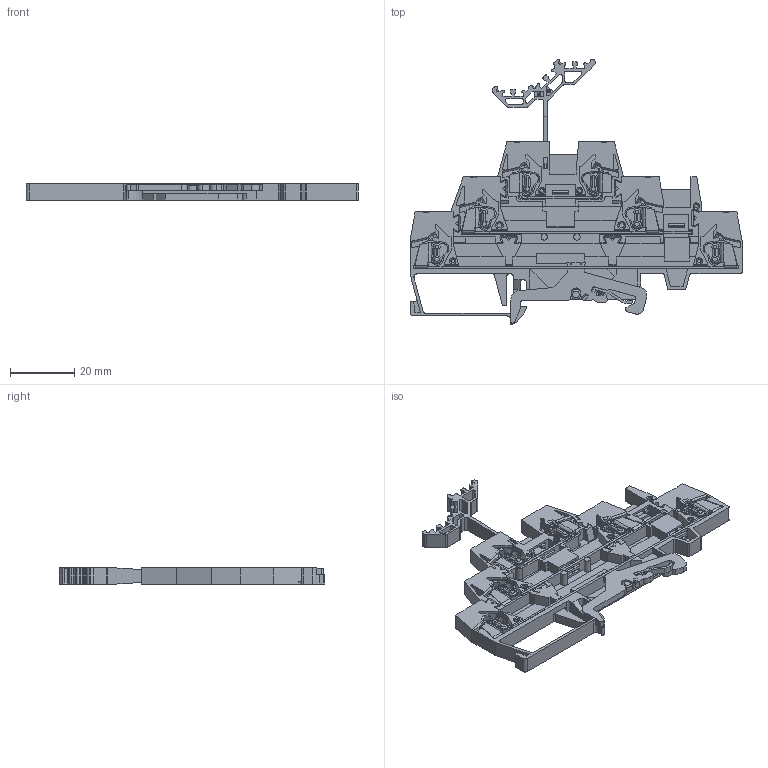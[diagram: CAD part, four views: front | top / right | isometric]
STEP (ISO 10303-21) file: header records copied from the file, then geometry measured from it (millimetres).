
FILE_DESCRIPTION (( 'STEP AP203' ), '1' );
FILE_NAME ('ÊÏÐ1-2,5Â-3ßõ2Â-ÐÅ.STEP', '2019-03-01T13:02:21', ( '' ), ( '' ), 'SwSTEP 2.0', 'SolidWorks 2016', '' );
FILE_SCHEMA (( 'CONFIG_CONTROL_DESIGN' ));
Length unit declared in the file: millimetre
Products named in the file (1): ÊÏÐ1-2,5Â-3ßõ2Â-ÐÅ
Bounding box: 103.4 x 82.8 x 5 mm (x, y, z)
Volume: 10086.7 mm3; surface area: 22476.6 mm2
Topology: 15 solids, 15 shells, 2162 faces, 6035 edges, 3923 vertices
Faces by surface type: plane 1554, cylinder 464, bspline 78, cone 46, torus 20
Full cylindrical faces by diameter (mm): 1.4 x5, 1.6 x5, 1.8 x2, 2 x4, 3 x1
Entity records: 73732 total; most frequent: CARTESIAN_POINT 18509, ORIENTED_EDGE 11960, DIRECTION 10706, EDGE_CURVE 5980, LINE 4710, VECTOR 4710, VERTEX_POINT 3913, AXIS2_PLACEMENT_3D 2998
